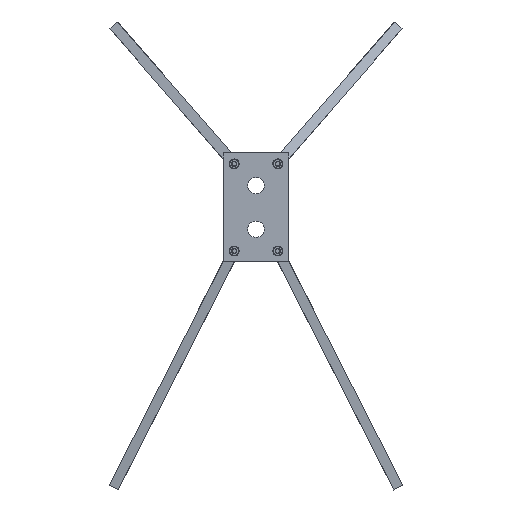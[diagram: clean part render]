
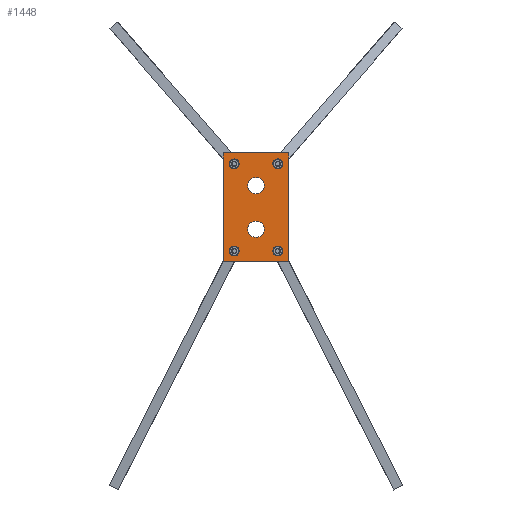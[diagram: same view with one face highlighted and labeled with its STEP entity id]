
A CAD part, front view. The second image highlights one B-rep face of the part: STEP entity #1448.
In plain terms, the highlighted planar face has unit normal (0, -1, 0).
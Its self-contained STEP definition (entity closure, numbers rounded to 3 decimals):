
#165=FACE_BOUND('',#331,.T.);
#166=FACE_BOUND('',#332,.T.);
#167=FACE_BOUND('',#333,.T.);
#168=FACE_BOUND('',#334,.T.);
#169=FACE_BOUND('',#335,.T.);
#170=FACE_BOUND('',#336,.T.);
#184=PLANE('',#1708);
#241=FACE_OUTER_BOUND('',#330,.T.);
#330=EDGE_LOOP('',(#1050,#1051,#1052,#1053));
#331=EDGE_LOOP('',(#1054));
#332=EDGE_LOOP('',(#1055));
#333=EDGE_LOOP('',(#1056));
#334=EDGE_LOOP('',(#1057));
#335=EDGE_LOOP('',(#1058));
#336=EDGE_LOOP('',(#1059));
#438=LINE('',#2385,#533);
#439=LINE('',#2387,#534);
#440=LINE('',#2389,#535);
#441=LINE('',#2390,#536);
#533=VECTOR('',#1927,10.);
#534=VECTOR('',#1928,10.);
#535=VECTOR('',#1929,10.);
#536=VECTOR('',#1930,10.);
#624=CIRCLE('',#1687,15.);
#627=CIRCLE('',#1691,5.);
#630=CIRCLE('',#1695,5.);
#633=CIRCLE('',#1699,5.);
#636=CIRCLE('',#1703,15.);
#639=CIRCLE('',#1707,5.);
#692=VERTEX_POINT('',#2339);
#695=VERTEX_POINT('',#2347);
#698=VERTEX_POINT('',#2355);
#701=VERTEX_POINT('',#2363);
#704=VERTEX_POINT('',#2371);
#707=VERTEX_POINT('',#2379);
#708=VERTEX_POINT('',#2383);
#709=VERTEX_POINT('',#2384);
#710=VERTEX_POINT('',#2386);
#711=VERTEX_POINT('',#2388);
#820=EDGE_CURVE('',#692,#692,#624,.T.);
#824=EDGE_CURVE('',#695,#695,#627,.T.);
#828=EDGE_CURVE('',#698,#698,#630,.T.);
#832=EDGE_CURVE('',#701,#701,#633,.T.);
#836=EDGE_CURVE('',#704,#704,#636,.T.);
#840=EDGE_CURVE('',#707,#707,#639,.T.);
#841=EDGE_CURVE('',#708,#709,#438,.T.);
#842=EDGE_CURVE('',#709,#710,#439,.T.);
#843=EDGE_CURVE('',#710,#711,#440,.T.);
#844=EDGE_CURVE('',#711,#708,#441,.T.);
#1050=ORIENTED_EDGE('',*,*,#841,.T.);
#1051=ORIENTED_EDGE('',*,*,#842,.T.);
#1052=ORIENTED_EDGE('',*,*,#843,.T.);
#1053=ORIENTED_EDGE('',*,*,#844,.T.);
#1054=ORIENTED_EDGE('',*,*,#820,.T.);
#1055=ORIENTED_EDGE('',*,*,#824,.T.);
#1056=ORIENTED_EDGE('',*,*,#828,.T.);
#1057=ORIENTED_EDGE('',*,*,#832,.T.);
#1058=ORIENTED_EDGE('',*,*,#836,.T.);
#1059=ORIENTED_EDGE('',*,*,#840,.T.);
#1448=ADVANCED_FACE('',(#241,#165,#166,#167,#168,#169,#170),#184,.T.);
#1687=AXIS2_PLACEMENT_3D('',#2341,#1878,#1879);
#1691=AXIS2_PLACEMENT_3D('',#2349,#1887,#1888);
#1695=AXIS2_PLACEMENT_3D('',#2357,#1896,#1897);
#1699=AXIS2_PLACEMENT_3D('',#2365,#1905,#1906);
#1703=AXIS2_PLACEMENT_3D('',#2373,#1914,#1915);
#1707=AXIS2_PLACEMENT_3D('',#2381,#1923,#1924);
#1708=AXIS2_PLACEMENT_3D('',#2382,#1925,#1926);
#1878=DIRECTION('center_axis',(0.,1.,0.));
#1879=DIRECTION('ref_axis',(1.,0.,0.));
#1887=DIRECTION('center_axis',(0.,1.,0.));
#1888=DIRECTION('ref_axis',(1.,0.,0.));
#1896=DIRECTION('center_axis',(0.,1.,0.));
#1897=DIRECTION('ref_axis',(1.,0.,0.));
#1905=DIRECTION('center_axis',(0.,1.,0.));
#1906=DIRECTION('ref_axis',(1.,0.,0.));
#1914=DIRECTION('center_axis',(0.,1.,0.));
#1915=DIRECTION('ref_axis',(1.,0.,0.));
#1923=DIRECTION('center_axis',(0.,1.,0.));
#1924=DIRECTION('ref_axis',(1.,0.,0.));
#1925=DIRECTION('center_axis',(0.,-1.,0.));
#1926=DIRECTION('ref_axis',(0.,0.,-1.));
#1927=DIRECTION('',(0.,0.,-1.));
#1928=DIRECTION('',(1.,0.,0.));
#1929=DIRECTION('',(0.,0.,1.));
#1930=DIRECTION('',(-1.,0.,0.));
#2339=CARTESIAN_POINT('',(-15.,-3.,40.));
#2341=CARTESIAN_POINT('Origin',(0.,-3.,40.));
#2347=CARTESIAN_POINT('',(35.,-3.,80.));
#2349=CARTESIAN_POINT('Origin',(40.,-3.,80.));
#2355=CARTESIAN_POINT('',(-45.,-3.,80.));
#2357=CARTESIAN_POINT('Origin',(-40.,-3.,80.));
#2363=CARTESIAN_POINT('',(-45.,-3.,-80.));
#2365=CARTESIAN_POINT('Origin',(-40.,-3.,-80.));
#2371=CARTESIAN_POINT('',(-15.,-3.,-40.));
#2373=CARTESIAN_POINT('Origin',(0.,-3.,-40.));
#2379=CARTESIAN_POINT('',(35.,-3.,-80.));
#2381=CARTESIAN_POINT('Origin',(40.,-3.,-80.));
#2382=CARTESIAN_POINT('Origin',(0.,-3.,0.));
#2383=CARTESIAN_POINT('',(-60.,-3.,100.));
#2384=CARTESIAN_POINT('',(-60.,-3.,-100.));
#2385=CARTESIAN_POINT('',(-60.,-3.,-100.));
#2386=CARTESIAN_POINT('',(60.,-3.,-100.));
#2387=CARTESIAN_POINT('',(60.,-3.,-100.));
#2388=CARTESIAN_POINT('',(60.,-3.,100.));
#2389=CARTESIAN_POINT('',(60.,-3.,100.));
#2390=CARTESIAN_POINT('',(-60.,-3.,100.));
